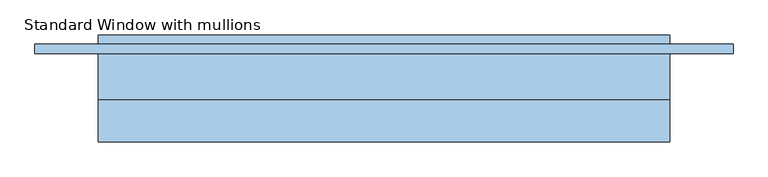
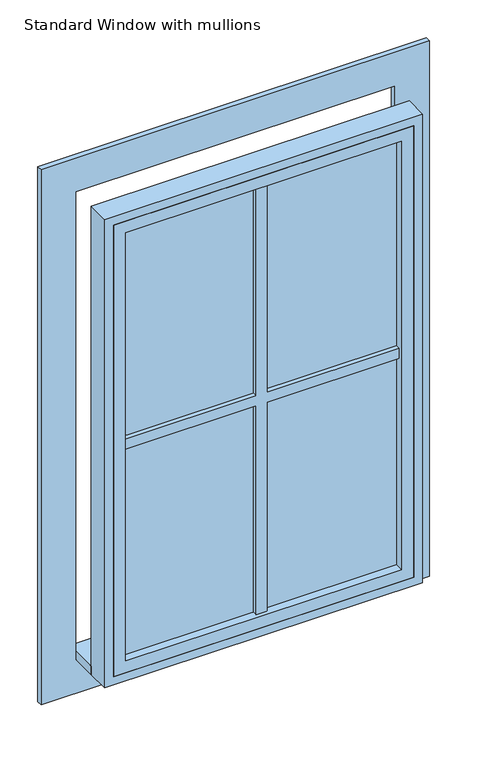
"""IFC4 building model written with IfcOpenShell, lengths in millimetres: window geometry, Standard Window with mullions : 900/1400."""

from ifc_helpers import new_model, si_unit, frame, origin, place, context, project, spatial, polyline, outline, extrude, source, transform, mapped, element, save


def standard_window_with_mullions_4ddc0d11(model_context):
    return source(origin(), model_context, "Body", "SweptSolid", [
        extrude(outline(polyline([(450.0, 26.9623738), (-450.0, 26.9623738), (-450.0, 130.0), (450.0, 130.0), (450.0, 26.9623738)])), frame((0.0, 0.0, 1000.0), z_axis=(0.0, 0.0, 1.0), x_axis=(1.0, 0.0, 0.0)), (0.0, 0.0, 1.0), 25.0),
        extrude(outline(polyline([(2500.0, -550.0), (900.0, -550.0), (900.0, 550.0), (2500.0, 550.0), (2500.0, -550.0)]), holes=[polyline([(2400.0, -450.0), (2400.0, 450.0), (1000.0, 450.0), (1000.0, -450.0), (2400.0, -450.0)])]), frame((0.0, 100.0, 0.0), z_axis=(0.0, 1.0, 0.0), x_axis=(0.0, 0.0, 1.0)), (0.0, 0.0, 1.0), 15.0),
        extrude(outline(polyline([(2375.0, -425.0), (1025.0, -425.0), (1025.0, 425.0), (2375.0, 425.0), (2375.0, -425.0)]), holes=[polyline([(2340.0, -390.0), (2340.0, 390.0), (1060.0, 390.0), (1060.0, -390.0), (2340.0, -390.0)])]), frame((0.0, -39.0188131, 0.0), z_axis=(0.0, 1.0, 0.0), x_axis=(0.0, 0.0, 1.0)), (0.0, 0.0, 1.0), 50.5),
        extrude(outline(polyline([(1000.0, -450.0), (1000.0, 450.0), (2400.0, 450.0), (2400.0, -450.0), (1000.0, -450.0)]), holes=[polyline([(1025.0, -425.0), (2375.0, -425.0), (2375.0, 425.0), (1025.0, 425.0), (1025.0, -425.0)])]), frame((0.0, -39.0188131, 0.0), z_axis=(0.0, 1.0, 0.0), x_axis=(0.0, 0.0, 1.0)), (0.0, 0.0, 1.0), 65.9811869),
        extrude(outline(polyline([(1715.0, 390.0), (1715.0, 15.0), (2340.0, 15.0), (2340.0, -15.0), (1715.0, -15.0), (1715.0, -390.0), (1685.0, -390.0), (1685.0, -15.0), (1060.0, -15.0), (1060.0, 15.0), (1685.0, 15.0), (1685.0, 390.0), (1715.0, 390.0)])), frame((0.0, -28.5188131, 0.0), z_axis=(0.0, 1.0, 0.0), x_axis=(0.0, 0.0, 1.0)), (0.0, 0.0, 1.0), 20.0),
        extrude(outline(polyline([(390.0, -15.5188131), (-390.0, -15.5188131), (-390.0, -13.5188131), (390.0, -13.5188131), (390.0, -15.5188131)])), frame((0.0, 0.0, 1060.0), z_axis=(0.0, 0.0, 1.0), x_axis=(1.0, 0.0, 0.0)), (0.0, 0.0, 1.0), 1280.0),
    ])


if __name__ == "__main__":
    model = new_model("IFC4")
    model_context = context("Model", 3, world=origin())
    ifc_project = project(units=[si_unit("LENGTHUNIT", "METRE", prefix="MILLI")], contexts=[model_context])
    site = spatial("IfcSite", under=ifc_project)
    building = spatial("IfcBuilding", under=site)
    placement = place(None, origin())
    standard_window_with_mullions_shape = standard_window_with_mullions_4ddc0d11(model_context)
    element("IfcWindow", 1, ObjectType="Standard Window with mullions : 900/1400", at=placement, inside=building, context=model_context, shape_type="MappedRepresentation", body=[
        mapped(standard_window_with_mullions_shape, transform((0.0, 0.0, 0.0), x_axis=(1.0, 0.0, 0.0), y_axis=(0.0, 1.0, 0.0), z_axis=(0.0, 0.0, 1.0))),
    ])
    save(model, "model.ifc")
